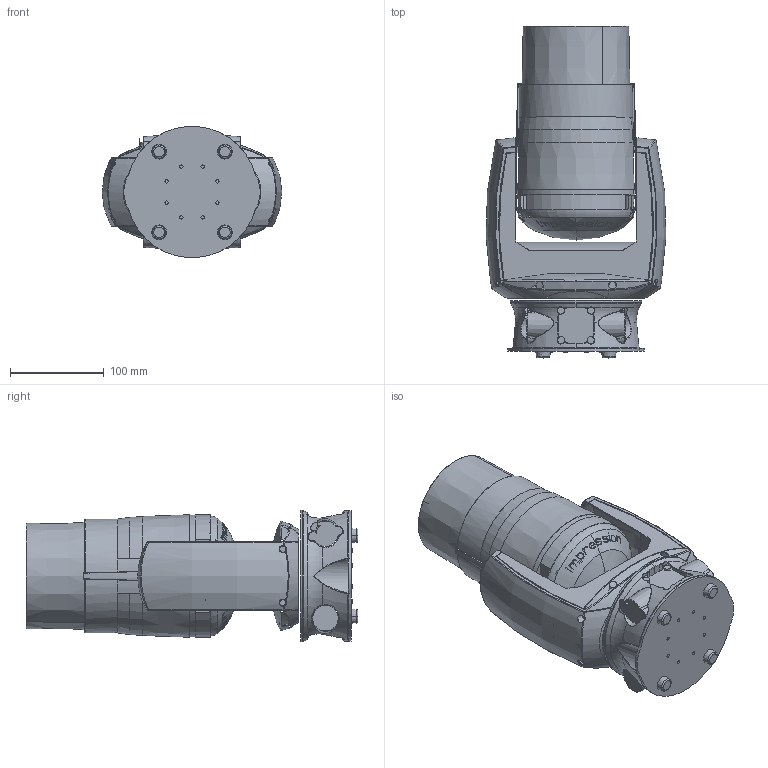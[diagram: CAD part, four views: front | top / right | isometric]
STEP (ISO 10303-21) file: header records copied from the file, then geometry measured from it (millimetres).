
FILE_DESCRIPTION((''),'2;1');
FILE_NAME('TEST2_SW0001','2018-04-19T',('fw'),(''),'CREO PARAMETRIC BY PTC INC, 2016260','CREO PARAMETRIC BY PTC INC, 2016260','');
FILE_SCHEMA(('AUTOMOTIVE_DESIGN { 1 0 10303 214 1 1 1 1 }'));
Products named in the file (1): TEST2_SW0001
Bounding box: 191.48 x 353.62 x 140 mm (x, y, z)
Surface area: 381958.7 mm2 (no closed solid volume)
Topology: 0 solids, 152 shells, 550 faces, 2882 edges, 2439 vertices
Faces by surface type: plane 179, bspline 141, cone 92, cylinder 77, torus 47, extrusion 12, sphere 2
Entity records: 43408 total; most frequent: CARTESIAN_POINT 20509, ORIENTED_EDGE 3499, EDGE_CURVE 2872, DIRECTION 2826, VERTEX_POINT 2435, B_SPLINE_CURVE_WITH_KNOTS 1562, AXIS2_PLACEMENT_3D 1095, CIRCLE 698
